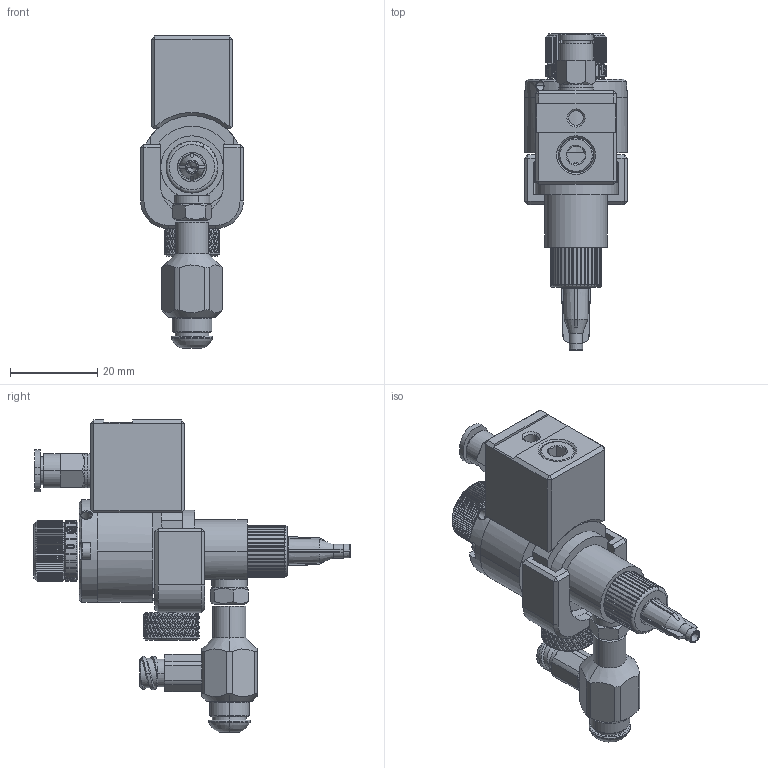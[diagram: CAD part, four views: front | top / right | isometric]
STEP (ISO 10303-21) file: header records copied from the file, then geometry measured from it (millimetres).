
FILE_DESCRIPTION (( 'STEP AP214' ), '1' );
FILE_NAME ('NORDSONEFD-7362488 VALVE XQR41V STR CTRL BLOCK PEEK.STEP', '2019-01-15T22:10:49', ( '' ), ( '' ), 'SwSTEP 2.0', 'SolidWorks 2018', '' );
FILE_SCHEMA (( 'AUTOMOTIVE_DESIGN' ));
Length unit declared in the file: inch
Products named in the file (1): NORDSONEFD-7362488  VALVE XQR41V STR CTRL BLOCK PEEK
Bounding box: 23.62 x 72.72 x 71.74 mm (x, y, z)
Surface area: 13232.1 mm2 (no closed solid volume)
Topology: 0 solids, 31 shells, 1866 faces, 4949 edges, 3012 vertices
Faces by surface type: bspline 828, plane 456, cylinder 382, cone 180, torus 20
Entity records: 66488 total; most frequent: CARTESIAN_POINT 31003, ORIENTED_EDGE 8835, EDGE_CURVE 4943, DIRECTION 4883, VERTEX_POINT 3012, EDGE_LOOP 1926, AXIS2_PLACEMENT_3D 1885, ADVANCED_FACE 1866
